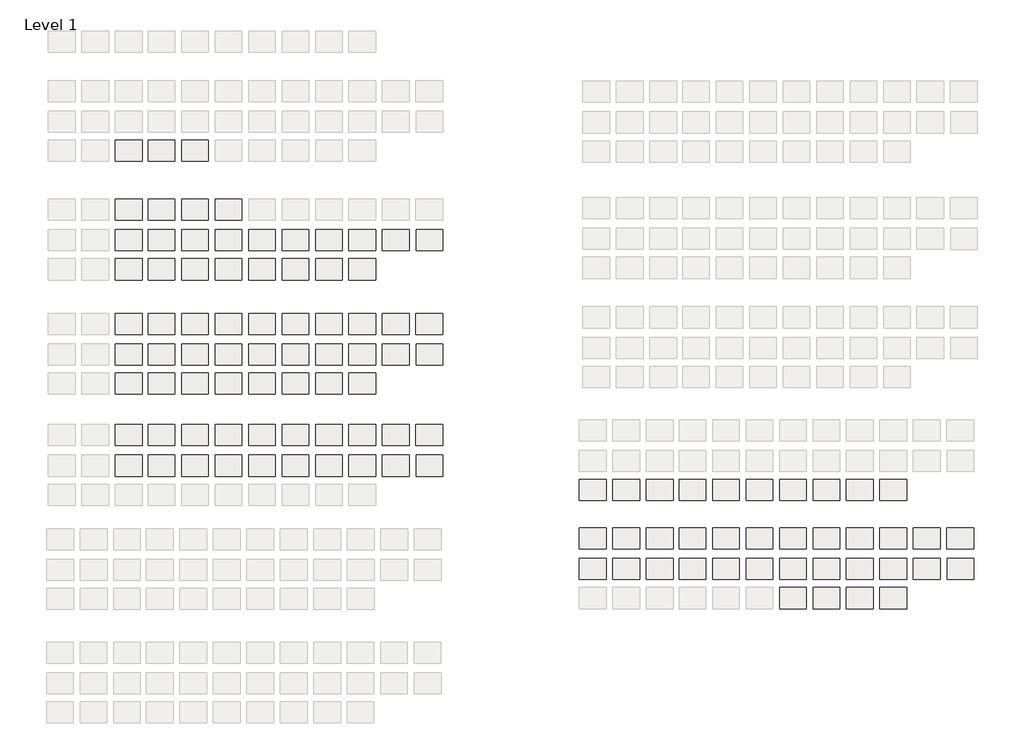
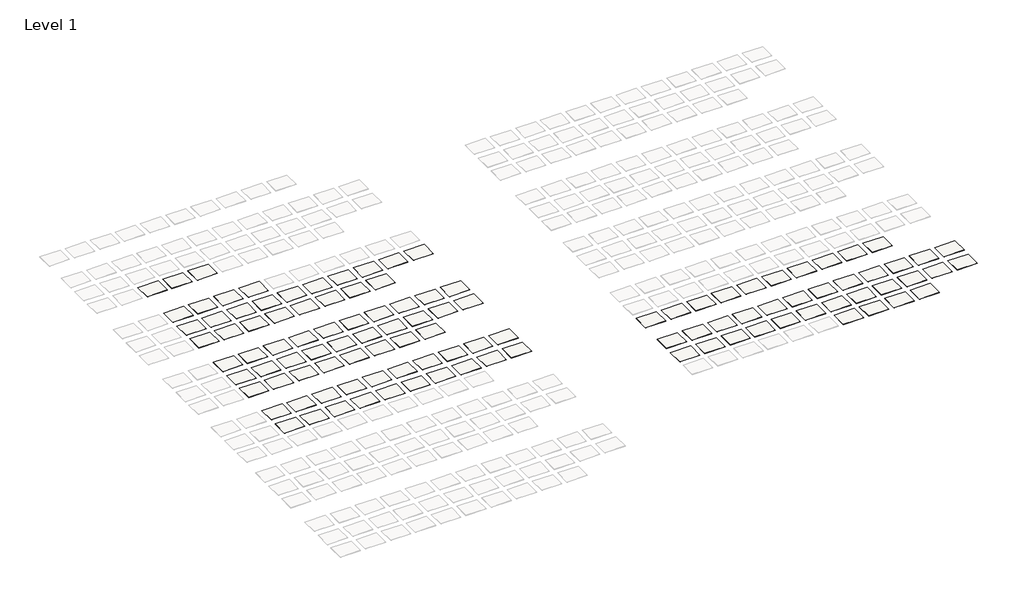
# One storey, part 2 of 4: 111 coverings.
"""IFC4 building model written with IfcOpenShell, lengths in millimetres."""

from ifc_helpers import new_model, si_unit, frame, origin, place, context, project, spatial, polyline, outline, extrude, element, save

model = new_model("IFC4")

# Units and contexts
model_context = context("Model", 3, world=origin())
ifc_project = project(units=[si_unit("LENGTHUNIT", "METRE", prefix="MILLI")], contexts=[model_context])

# Site, building, storey
site = spatial("IfcSite", under=ifc_project)
building = spatial("IfcBuilding", under=site)
storey = spatial("IfcBuildingStorey", under=building, Name="Level 1", Elevation=0.0)

# Coverings
placement = place(None, origin())
element("IfcCovering", 1, ObjectType="Rockfon Color-all A15 600 x 600 mm Scarlet", at=placement, inside=storey, context=model_context, shape_type="SweptSolid", body=[
    extrude(outline(polyline([(4177.7144566, -18251.7532862), (4177.7144566, -21151.7532862), (487.7144566, -21151.7532862), (487.7144566, -18251.7532862), (4177.7144566, -18251.7532862)])), frame((0.0, 0.0, 1.0), z_axis=(0.0, 0.0, 1.0), x_axis=(1.0, 0.0, 0.0)), (0.0, 0.0, 1.0), 15.0),
])
element("IfcCovering", 2, ObjectType="Rockfon Color-all A15 600 x 600 mm Stone", at=placement, inside=storey, context=model_context, shape_type="SweptSolid", body=[
    extrude(outline(polyline([(8677.7144566, -18251.7532862), (8677.7144566, -21151.7532862), (4987.7144566, -21151.7532862), (4987.7144566, -18251.7532862), (8677.7144566, -18251.7532862)])), frame((0.0, 0.0, 1.0), z_axis=(0.0, 0.0, 1.0), x_axis=(1.0, 0.0, 0.0)), (0.0, 0.0, 1.0), 15.0),
])
element("IfcCovering", 3, ObjectType="Rockfon Color-all A15 600 x 600 mm Stucco", at=placement, inside=storey, context=model_context, shape_type="SweptSolid", body=[
    extrude(outline(polyline([(13277.7144566, -18251.7532862), (13277.7144566, -21151.7532862), (9587.7144566, -21151.7532862), (9587.7144566, -18251.7532862), (13277.7144566, -18251.7532862)])), frame((0.0, 0.0, 1.0), z_axis=(0.0, 0.0, 1.0), x_axis=(1.0, 0.0, 0.0)), (0.0, 0.0, 1.0), 15.0),
])
element("IfcCovering", 4, ObjectType="Rockfon Color-all A24 600 x 600 mm Sand", at=placement, inside=storey, context=model_context, shape_type="SweptSolid", body=[
    extrude(outline(polyline([(4177.7144566, -42051.7532862), (4177.7144566, -44951.7532862), (487.7144566, -44951.7532862), (487.7144566, -42051.7532862), (4177.7144566, -42051.7532862)])), frame((0.0, 0.0, 1.0), z_axis=(0.0, 0.0, 1.0), x_axis=(1.0, 0.0, 0.0)), (0.0, 0.0, 1.0), 15.0),
])
element("IfcCovering", 5, ObjectType="Rockfon Color-all A24 600 x 600 mm Fresh", at=placement, inside=storey, context=model_context, shape_type="SweptSolid", body=[
    extrude(outline(polyline([(4177.7144566, -46251.7532862), (4177.7144566, -49151.7532862), (487.7144566, -49151.7532862), (487.7144566, -46251.7532862), (4177.7144566, -46251.7532862)])), frame((0.0, 0.0, 1.0), z_axis=(0.0, 0.0, 1.0), x_axis=(1.0, 0.0, 0.0)), (0.0, 0.0, 1.0), 15.0),
])
element("IfcCovering", 6, ObjectType="Rockfon Color-all A24 600 x 600 mm Scarlet", at=placement, inside=storey, context=model_context, shape_type="SweptSolid", body=[
    extrude(outline(polyline([(4177.7144566, -50251.7532862), (4177.7144566, -53151.7532862), (487.7144566, -53151.7532862), (487.7144566, -50251.7532862), (4177.7144566, -50251.7532862)])), frame((0.0, 0.0, 1.0), z_axis=(0.0, 0.0, 1.0), x_axis=(1.0, 0.0, 0.0)), (0.0, 0.0, 1.0), 15.0),
])
element("IfcCovering", 7, ObjectType="Rockfon Color-all A24 600 x 600 mm Chalk", at=placement, inside=storey, context=model_context, shape_type="SweptSolid", body=[
    extrude(outline(polyline([(8677.7144566, -42051.7532862), (8677.7144566, -44951.7532862), (4987.7144566, -44951.7532862), (4987.7144566, -42051.7532862), (8677.7144566, -42051.7532862)])), frame((0.0, 0.0, 1.0), z_axis=(0.0, 0.0, 1.0), x_axis=(1.0, 0.0, 0.0)), (0.0, 0.0, 1.0), 15.0),
])
element("IfcCovering", 8, ObjectType="Rockfon Color-all A24 600 x 600 mm Sage", at=placement, inside=storey, context=model_context, shape_type="SweptSolid", body=[
    extrude(outline(polyline([(8677.7144566, -46251.7532862), (8677.7144566, -49151.7532862), (4987.7144566, -49151.7532862), (4987.7144566, -46251.7532862), (8677.7144566, -46251.7532862)])), frame((0.0, 0.0, 1.0), z_axis=(0.0, 0.0, 1.0), x_axis=(1.0, 0.0, 0.0)), (0.0, 0.0, 1.0), 15.0),
])
element("IfcCovering", 9, ObjectType="Rockfon Color-all A24 600 x 600 mm Stone", at=placement, inside=storey, context=model_context, shape_type="SweptSolid", body=[
    extrude(outline(polyline([(8677.7144566, -50251.7532862), (8677.7144566, -53151.7532862), (4987.7144566, -53151.7532862), (4987.7144566, -50251.7532862), (8677.7144566, -50251.7532862)])), frame((0.0, 0.0, 1.0), z_axis=(0.0, 0.0, 1.0), x_axis=(1.0, 0.0, 0.0)), (0.0, 0.0, 1.0), 15.0),
])
element("IfcCovering", 10, ObjectType="Rockfon Color-all A24 600 x 600 mm Charcoal", at=placement, inside=storey, context=model_context, shape_type="SweptSolid", body=[
    extrude(outline(polyline([(13277.7144566, -42051.7532862), (13277.7144566, -44951.7532862), (9587.7144566, -44951.7532862), (9587.7144566, -42051.7532862), (13277.7144566, -42051.7532862)])), frame((0.0, 0.0, 1.0), z_axis=(0.0, 0.0, 1.0), x_axis=(1.0, 0.0, 0.0)), (0.0, 0.0, 1.0), 15.0),
])
element("IfcCovering", 11, ObjectType="Rockfon Color-all A24 600 x 600 mm Mint", at=placement, inside=storey, context=model_context, shape_type="SweptSolid", body=[
    extrude(outline(polyline([(13277.7144566, -46251.7532862), (13277.7144566, -49151.7532862), (9587.7144566, -49151.7532862), (9587.7144566, -46251.7532862), (13277.7144566, -46251.7532862)])), frame((0.0, 0.0, 1.0), z_axis=(0.0, 0.0, 1.0), x_axis=(1.0, 0.0, 0.0)), (0.0, 0.0, 1.0), 15.0),
])
element("IfcCovering", 12, ObjectType="Rockfon Color-all A24 600 x 600 mm Stucco", at=placement, inside=storey, context=model_context, shape_type="SweptSolid", body=[
    extrude(outline(polyline([(13277.7144566, -50251.7532862), (13277.7144566, -53151.7532862), (9587.7144566, -53151.7532862), (9587.7144566, -50251.7532862), (13277.7144566, -50251.7532862)])), frame((0.0, 0.0, 1.0), z_axis=(0.0, 0.0, 1.0), x_axis=(1.0, 0.0, 0.0)), (0.0, 0.0, 1.0), 15.0),
])
element("IfcCovering", 13, ObjectType="Rockfon Color-all A24 600 x 600 mm Coral", at=placement, inside=storey, context=model_context, shape_type="SweptSolid", body=[
    extrude(outline(polyline([(17877.7144566, -42051.7532862), (17877.7144566, -44951.7532862), (14187.7144566, -44951.7532862), (14187.7144566, -42051.7532862), (17877.7144566, -42051.7532862)])), frame((0.0, 0.0, 1.0), z_axis=(0.0, 0.0, 1.0), x_axis=(1.0, 0.0, 0.0)), (0.0, 0.0, 1.0), 15.0),
])
element("IfcCovering", 14, ObjectType="Rockfon Color-all A24 600 x 600 mm Gravel", at=placement, inside=storey, context=model_context, shape_type="SweptSolid", body=[
    extrude(outline(polyline([(17877.7144566, -46251.7532862), (17877.7144566, -49151.7532862), (14187.7144566, -49151.7532862), (14187.7144566, -46251.7532862), (17877.7144566, -46251.7532862)])), frame((0.0, 0.0, 1.0), z_axis=(0.0, 0.0, 1.0), x_axis=(1.0, 0.0, 0.0)), (0.0, 0.0, 1.0), 15.0),
])
element("IfcCovering", 15, ObjectType="Rockfon Color-all A24 600 x 600 mm Sandalwood", at=placement, inside=storey, context=model_context, shape_type="SweptSolid", body=[
    extrude(outline(polyline([(17877.7144566, -50251.7532862), (17877.7144566, -53151.7532862), (14187.7144566, -53151.7532862), (14187.7144566, -50251.7532862), (17877.7144566, -50251.7532862)])), frame((0.0, 0.0, 1.0), z_axis=(0.0, 0.0, 1.0), x_axis=(1.0, 0.0, 0.0)), (0.0, 0.0, 1.0), 15.0),
])
element("IfcCovering", 16, ObjectType="Rockfon Color-all A24 600 x 600 mm Clay", at=placement, inside=storey, context=model_context, shape_type="SweptSolid", body=[
    extrude(outline(polyline([(22477.7144566, -42051.7532862), (22477.7144566, -44951.7532862), (18787.7144566, -44951.7532862), (18787.7144566, -42051.7532862), (22477.7144566, -42051.7532862)])), frame((0.0, 0.0, 1.0), z_axis=(0.0, 0.0, 1.0), x_axis=(1.0, 0.0, 0.0)), (0.0, 0.0, 1.0), 15.0),
])
element("IfcCovering", 17, ObjectType="Rockfon Color-all A24 600 x 600 mm Hemp", at=placement, inside=storey, context=model_context, shape_type="SweptSolid", body=[
    extrude(outline(polyline([(22477.7144566, -46251.7532862), (22477.7144566, -49151.7532862), (18787.7144566, -49151.7532862), (18787.7144566, -46251.7532862), (22477.7144566, -46251.7532862)])), frame((0.0, 0.0, 1.0), z_axis=(0.0, 0.0, 1.0), x_axis=(1.0, 0.0, 0.0)), (0.0, 0.0, 1.0), 15.0),
])
element("IfcCovering", 18, ObjectType="Rockfon Color-all A24 600 x 600 mm Ebony", at=placement, inside=storey, context=model_context, shape_type="SweptSolid", body=[
    extrude(outline(polyline([(22477.7144566, -50251.7532862), (22477.7144566, -53151.7532862), (18787.7144566, -53151.7532862), (18787.7144566, -50251.7532862), (22477.7144566, -50251.7532862)])), frame((0.0, 0.0, 1.0), z_axis=(0.0, 0.0, 1.0), x_axis=(1.0, 0.0, 0.0)), (0.0, 0.0, 1.0), 15.0),
])
element("IfcCovering", 19, ObjectType="Rockfon Color-all A24 600 x 600 mm Concrete", at=placement, inside=storey, context=model_context, shape_type="SweptSolid", body=[
    extrude(outline(polyline([(27077.7144566, -42051.7532862), (27077.7144566, -44951.7532862), (23387.7144566, -44951.7532862), (23387.7144566, -42051.7532862), (27077.7144566, -42051.7532862)])), frame((0.0, 0.0, 1.0), z_axis=(0.0, 0.0, 1.0), x_axis=(1.0, 0.0, 0.0)), (0.0, 0.0, 1.0), 15.0),
])
element("IfcCovering", 20, ObjectType="Rockfon Color-all A24 600 x 600 mm Space", at=placement, inside=storey, context=model_context, shape_type="SweptSolid", body=[
    extrude(outline(polyline([(27077.7144566, -46251.7532862), (27077.7144566, -49151.7532862), (23387.7144566, -49151.7532862), (23387.7144566, -46251.7532862), (27077.7144566, -46251.7532862)])), frame((0.0, 0.0, 1.0), z_axis=(0.0, 0.0, 1.0), x_axis=(1.0, 0.0, 0.0)), (0.0, 0.0, 1.0), 15.0),
])
element("IfcCovering", 21, ObjectType="Rockfon Color-all A24 600 x 600 mm Iron", at=placement, inside=storey, context=model_context, shape_type="SweptSolid", body=[
    extrude(outline(polyline([(27077.7144566, -50251.7532862), (27077.7144566, -53151.7532862), (23387.7144566, -53151.7532862), (23387.7144566, -50251.7532862), (27077.7144566, -50251.7532862)])), frame((0.0, 0.0, 1.0), z_axis=(0.0, 0.0, 1.0), x_axis=(1.0, 0.0, 0.0)), (0.0, 0.0, 1.0), 15.0),
])
element("IfcCovering", 22, ObjectType="Rockfon Color-all A24 600 x 600 mm Seashell", at=placement, inside=storey, context=model_context, shape_type="SweptSolid", body=[
    extrude(outline(polyline([(31677.7144566, -42051.7532862), (31677.7144566, -44951.7532862), (27987.7144566, -44951.7532862), (27987.7144566, -42051.7532862), (31677.7144566, -42051.7532862)])), frame((0.0, 0.0, 1.0), z_axis=(0.0, 0.0, 1.0), x_axis=(1.0, 0.0, 0.0)), (0.0, 0.0, 1.0), 15.0),
])
element("IfcCovering", 23, ObjectType="Rockfon Color-all A24 600 x 600 mm Storm", at=placement, inside=storey, context=model_context, shape_type="SweptSolid", body=[
    extrude(outline(polyline([(31677.7144566, -46251.7532862), (31677.7144566, -49151.7532862), (27987.7144566, -49151.7532862), (27987.7144566, -46251.7532862), (31677.7144566, -46251.7532862)])), frame((0.0, 0.0, 1.0), z_axis=(0.0, 0.0, 1.0), x_axis=(1.0, 0.0, 0.0)), (0.0, 0.0, 1.0), 15.0),
])
element("IfcCovering", 24, ObjectType="Rockfon Color-all A24 600 x 600 mm Moon", at=placement, inside=storey, context=model_context, shape_type="SweptSolid", body=[
    extrude(outline(polyline([(31677.7144566, -50251.7532862), (31677.7144566, -53151.7532862), (27987.7144566, -53151.7532862), (27987.7144566, -50251.7532862), (31677.7144566, -50251.7532862)])), frame((0.0, 0.0, 1.0), z_axis=(0.0, 0.0, 1.0), x_axis=(1.0, 0.0, 0.0)), (0.0, 0.0, 1.0), 15.0),
])
element("IfcCovering", 25, ObjectType="Rockfon Color-all A24 600 x 600 mm Cork", at=placement, inside=storey, context=model_context, shape_type="SweptSolid", body=[
    extrude(outline(polyline([(36277.7144566, -42051.7532862), (36277.7144566, -44951.7532862), (32587.7144566, -44951.7532862), (32587.7144566, -42051.7532862), (36277.7144566, -42051.7532862)])), frame((0.0, 0.0, 1.0), z_axis=(0.0, 0.0, 1.0), x_axis=(1.0, 0.0, 0.0)), (0.0, 0.0, 1.0), 15.0),
])
element("IfcCovering", 26, ObjectType="Rockfon Color-all A24 600 x 600 mm Linen", at=placement, inside=storey, context=model_context, shape_type="SweptSolid", body=[
    extrude(outline(polyline([(36277.7144566, -46251.7532862), (36277.7144566, -49151.7532862), (32587.7144566, -49151.7532862), (32587.7144566, -46251.7532862), (36277.7144566, -46251.7532862)])), frame((0.0, 0.0, 1.0), z_axis=(0.0, 0.0, 1.0), x_axis=(1.0, 0.0, 0.0)), (0.0, 0.0, 1.0), 15.0),
])
element("IfcCovering", 27, ObjectType="Rockfon Color-all A24 600 x 600 mm Zinc", at=placement, inside=storey, context=model_context, shape_type="SweptSolid", body=[
    extrude(outline(polyline([(36277.7144566, -50251.7532862), (36277.7144566, -53151.7532862), (32587.7144566, -53151.7532862), (32587.7144566, -50251.7532862), (36277.7144566, -50251.7532862)])), frame((0.0, 0.0, 1.0), z_axis=(0.0, 0.0, 1.0), x_axis=(1.0, 0.0, 0.0)), (0.0, 0.0, 1.0), 15.0),
])
element("IfcCovering", 28, ObjectType="Rockfon Color-all A24 600 x 600 mm Petal", at=placement, inside=storey, context=model_context, shape_type="SweptSolid", body=[
    extrude(outline(polyline([(40877.7144566, -42051.7532862), (40877.7144566, -44951.7532862), (37187.7144566, -44951.7532862), (37187.7144566, -42051.7532862), (40877.7144566, -42051.7532862)])), frame((0.0, 0.0, 1.0), z_axis=(0.0, 0.0, 1.0), x_axis=(1.0, 0.0, 0.0)), (0.0, 0.0, 1.0), 15.0),
])
element("IfcCovering", 29, ObjectType="Rockfon Color-all A24 600 x 600 mm Mastic", at=placement, inside=storey, context=model_context, shape_type="SweptSolid", body=[
    extrude(outline(polyline([(40877.7144566, -46251.7532862), (40877.7144566, -49151.7532862), (37187.7144566, -49151.7532862), (37187.7144566, -46251.7532862), (40877.7144566, -46251.7532862)])), frame((0.0, 0.0, 1.0), z_axis=(0.0, 0.0, 1.0), x_axis=(1.0, 0.0, 0.0)), (0.0, 0.0, 1.0), 15.0),
])
element("IfcCovering", 30, ObjectType="Rockfon Color-all A24 600 x 600 mm Mercury", at=placement, inside=storey, context=model_context, shape_type="SweptSolid", body=[
    extrude(outline(polyline([(45496.7857141, -46256.8808472), (45496.7857141, -49156.8808472), (41806.7857141, -49156.8808472), (41806.7857141, -46256.8808472), (45496.7857141, -46256.8808472)])), frame((0.0, 0.0, 1.0), z_axis=(0.0, 0.0, 1.0), x_axis=(1.0, 0.0, 0.0)), (0.0, 0.0, 1.0), 15.0),
])
element("IfcCovering", 31, ObjectType="Rockfon Color-all A24 600 x 600 mm Earth", at=placement, inside=storey, context=model_context, shape_type="SweptSolid", body=[
    extrude(outline(polyline([(45477.7144566, -42051.7532862), (45477.7144566, -44951.7532862), (41787.7144566, -44951.7532862), (41787.7144566, -42051.7532862), (45477.7144566, -42051.7532862)])), frame((0.0, 0.0, 1.0), z_axis=(0.0, 0.0, 1.0), x_axis=(1.0, 0.0, 0.0)), (0.0, 0.0, 1.0), 15.0),
])
element("IfcCovering", 32, ObjectType="Rockfon Color-all A15 1200 x 600 mm Sand", at=placement, inside=storey, context=model_context, shape_type="SweptSolid", body=[
    extrude(outline(polyline([(4177.7144566, -26351.7532862), (4177.7144566, -29251.7532862), (487.7144566, -29251.7532862), (487.7144566, -26351.7532862), (4177.7144566, -26351.7532862)])), frame((0.0, 0.0, 1.0), z_axis=(0.0, 0.0, 1.0), x_axis=(1.0, 0.0, 0.0)), (0.0, 0.0, 1.0), 15.0),
])
element("IfcCovering", 33, ObjectType="Rockfon Color-all A15 1200 x 600 mm Fresh", at=placement, inside=storey, context=model_context, shape_type="SweptSolid", body=[
    extrude(outline(polyline([(4177.7144566, -30551.7532862), (4177.7144566, -33451.7532862), (487.7144566, -33451.7532862), (487.7144566, -30551.7532862), (4177.7144566, -30551.7532862)])), frame((0.0, 0.0, 1.0), z_axis=(0.0, 0.0, 1.0), x_axis=(1.0, 0.0, 0.0)), (0.0, 0.0, 1.0), 15.0),
])
element("IfcCovering", 34, ObjectType="Rockfon Color-all A15 1200 x 600 mm Scarlet", at=placement, inside=storey, context=model_context, shape_type="SweptSolid", body=[
    extrude(outline(polyline([(4177.7144566, -34551.7532862), (4177.7144566, -37451.7532862), (487.7144566, -37451.7532862), (487.7144566, -34551.7532862), (4177.7144566, -34551.7532862)])), frame((0.0, 0.0, 1.0), z_axis=(0.0, 0.0, 1.0), x_axis=(1.0, 0.0, 0.0)), (0.0, 0.0, 1.0), 15.0),
])
element("IfcCovering", 35, ObjectType="Rockfon Color-all A15 1200 x 600 mm Chalk", at=placement, inside=storey, context=model_context, shape_type="SweptSolid", body=[
    extrude(outline(polyline([(8677.7144566, -26351.7532862), (8677.7144566, -29251.7532862), (4987.7144566, -29251.7532862), (4987.7144566, -26351.7532862), (8677.7144566, -26351.7532862)])), frame((0.0, 0.0, 1.0), z_axis=(0.0, 0.0, 1.0), x_axis=(1.0, 0.0, 0.0)), (0.0, 0.0, 1.0), 15.0),
])
element("IfcCovering", 36, ObjectType="Rockfon Color-all A15 1200 x 600 mm Sage", at=placement, inside=storey, context=model_context, shape_type="SweptSolid", body=[
    extrude(outline(polyline([(8677.7144566, -30551.7532862), (8677.7144566, -33451.7532862), (4987.7144566, -33451.7532862), (4987.7144566, -30551.7532862), (8677.7144566, -30551.7532862)])), frame((0.0, 0.0, 1.0), z_axis=(0.0, 0.0, 1.0), x_axis=(1.0, 0.0, 0.0)), (0.0, 0.0, 1.0), 15.0),
])
element("IfcCovering", 37, ObjectType="Rockfon Color-all A15 1200 x 600 mm Stone", at=placement, inside=storey, context=model_context, shape_type="SweptSolid", body=[
    extrude(outline(polyline([(8677.7144566, -34551.7532862), (8677.7144566, -37451.7532862), (4987.7144566, -37451.7532862), (4987.7144566, -34551.7532862), (8677.7144566, -34551.7532862)])), frame((0.0, 0.0, 1.0), z_axis=(0.0, 0.0, 1.0), x_axis=(1.0, 0.0, 0.0)), (0.0, 0.0, 1.0), 15.0),
])
element("IfcCovering", 38, ObjectType="Rockfon Color-all A15 1200 x 600 mm Charcoal", at=placement, inside=storey, context=model_context, shape_type="SweptSolid", body=[
    extrude(outline(polyline([(13277.7144566, -26351.7532862), (13277.7144566, -29251.7532862), (9587.7144566, -29251.7532862), (9587.7144566, -26351.7532862), (13277.7144566, -26351.7532862)])), frame((0.0, 0.0, 1.0), z_axis=(0.0, 0.0, 1.0), x_axis=(1.0, 0.0, 0.0)), (0.0, 0.0, 1.0), 15.0),
])
element("IfcCovering", 39, ObjectType="Rockfon Color-all A15 1200 x 600 mm Mint", at=placement, inside=storey, context=model_context, shape_type="SweptSolid", body=[
    extrude(outline(polyline([(13277.7144566, -30551.7532862), (13277.7144566, -33451.7532862), (9587.7144566, -33451.7532862), (9587.7144566, -30551.7532862), (13277.7144566, -30551.7532862)])), frame((0.0, 0.0, 1.0), z_axis=(0.0, 0.0, 1.0), x_axis=(1.0, 0.0, 0.0)), (0.0, 0.0, 1.0), 15.0),
])
element("IfcCovering", 40, ObjectType="Rockfon Color-all A15 1200 x 600 mm Stucco", at=placement, inside=storey, context=model_context, shape_type="SweptSolid", body=[
    extrude(outline(polyline([(13277.7144566, -34551.7532862), (13277.7144566, -37451.7532862), (9587.7144566, -37451.7532862), (9587.7144566, -34551.7532862), (13277.7144566, -34551.7532862)])), frame((0.0, 0.0, 1.0), z_axis=(0.0, 0.0, 1.0), x_axis=(1.0, 0.0, 0.0)), (0.0, 0.0, 1.0), 15.0),
])
element("IfcCovering", 41, ObjectType="Rockfon Color-all A15 1200 x 600 mm Coral", at=placement, inside=storey, context=model_context, shape_type="SweptSolid", body=[
    extrude(outline(polyline([(17877.7144566, -26351.7532862), (17877.7144566, -29251.7532862), (14187.7144566, -29251.7532862), (14187.7144566, -26351.7532862), (17877.7144566, -26351.7532862)])), frame((0.0, 0.0, 1.0), z_axis=(0.0, 0.0, 1.0), x_axis=(1.0, 0.0, 0.0)), (0.0, 0.0, 1.0), 15.0),
])
element("IfcCovering", 42, ObjectType="Rockfon Color-all A15 1200 x 600 mm Gravel", at=placement, inside=storey, context=model_context, shape_type="SweptSolid", body=[
    extrude(outline(polyline([(17877.7144566, -30551.7532862), (17877.7144566, -33451.7532862), (14187.7144566, -33451.7532862), (14187.7144566, -30551.7532862), (17877.7144566, -30551.7532862)])), frame((0.0, 0.0, 1.0), z_axis=(0.0, 0.0, 1.0), x_axis=(1.0, 0.0, 0.0)), (0.0, 0.0, 1.0), 15.0),
])
element("IfcCovering", 43, ObjectType="Rockfon Color-all A15 1200 x 600 mm Sandalwood", at=placement, inside=storey, context=model_context, shape_type="SweptSolid", body=[
    extrude(outline(polyline([(17877.7144566, -34551.7532862), (17877.7144566, -37451.7532862), (14187.7144566, -37451.7532862), (14187.7144566, -34551.7532862), (17877.7144566, -34551.7532862)])), frame((0.0, 0.0, 1.0), z_axis=(0.0, 0.0, 1.0), x_axis=(1.0, 0.0, 0.0)), (0.0, 0.0, 1.0), 15.0),
])
element("IfcCovering", 44, ObjectType="Rockfon Color-all A15 1200 x 600 mm Hemp", at=placement, inside=storey, context=model_context, shape_type="SweptSolid", body=[
    extrude(outline(polyline([(22477.7144566, -30551.7532862), (22477.7144566, -33451.7532862), (18787.7144566, -33451.7532862), (18787.7144566, -30551.7532862), (22477.7144566, -30551.7532862)])), frame((0.0, 0.0, 1.0), z_axis=(0.0, 0.0, 1.0), x_axis=(1.0, 0.0, 0.0)), (0.0, 0.0, 1.0), 15.0),
])
element("IfcCovering", 45, ObjectType="Rockfon Color-all A15 1200 x 600 mm Ebony", at=placement, inside=storey, context=model_context, shape_type="SweptSolid", body=[
    extrude(outline(polyline([(22477.7144566, -34551.7532862), (22477.7144566, -37451.7532862), (18787.7144566, -37451.7532862), (18787.7144566, -34551.7532862), (22477.7144566, -34551.7532862)])), frame((0.0, 0.0, 1.0), z_axis=(0.0, 0.0, 1.0), x_axis=(1.0, 0.0, 0.0)), (0.0, 0.0, 1.0), 15.0),
])
element("IfcCovering", 46, ObjectType="Rockfon Color-all A15 1200 x 600 mm Space", at=placement, inside=storey, context=model_context, shape_type="SweptSolid", body=[
    extrude(outline(polyline([(27077.7144566, -30551.7532862), (27077.7144566, -33451.7532862), (23387.7144566, -33451.7532862), (23387.7144566, -30551.7532862), (27077.7144566, -30551.7532862)])), frame((0.0, 0.0, 1.0), z_axis=(0.0, 0.0, 1.0), x_axis=(1.0, 0.0, 0.0)), (0.0, 0.0, 1.0), 15.0),
])
element("IfcCovering", 47, ObjectType="Rockfon Color-all A15 1200 x 600 mm Iron", at=placement, inside=storey, context=model_context, shape_type="SweptSolid", body=[
    extrude(outline(polyline([(27077.7144566, -34551.7532862), (27077.7144566, -37451.7532862), (23387.7144566, -37451.7532862), (23387.7144566, -34551.7532862), (27077.7144566, -34551.7532862)])), frame((0.0, 0.0, 1.0), z_axis=(0.0, 0.0, 1.0), x_axis=(1.0, 0.0, 0.0)), (0.0, 0.0, 1.0), 15.0),
])
element("IfcCovering", 48, ObjectType="Rockfon Color-all A15 1200 x 600 mm Storm", at=placement, inside=storey, context=model_context, shape_type="SweptSolid", body=[
    extrude(outline(polyline([(31677.7144566, -30551.7532862), (31677.7144566, -33451.7532862), (27987.7144566, -33451.7532862), (27987.7144566, -30551.7532862), (31677.7144566, -30551.7532862)])), frame((0.0, 0.0, 1.0), z_axis=(0.0, 0.0, 1.0), x_axis=(1.0, 0.0, 0.0)), (0.0, 0.0, 1.0), 15.0),
])
element("IfcCovering", 49, ObjectType="Rockfon Color-all A15 1200 x 600 mm Moon", at=placement, inside=storey, context=model_context, shape_type="SweptSolid", body=[
    extrude(outline(polyline([(31677.7144566, -34551.7532862), (31677.7144566, -37451.7532862), (27987.7144566, -37451.7532862), (27987.7144566, -34551.7532862), (31677.7144566, -34551.7532862)])), frame((0.0, 0.0, 1.0), z_axis=(0.0, 0.0, 1.0), x_axis=(1.0, 0.0, 0.0)), (0.0, 0.0, 1.0), 15.0),
])
element("IfcCovering", 50, ObjectType="Rockfon Color-all A15 1200 x 600 mm Linen", at=placement, inside=storey, context=model_context, shape_type="SweptSolid", body=[
    extrude(outline(polyline([(36277.7144566, -30551.7532862), (36277.7144566, -33451.7532862), (32587.7144566, -33451.7532862), (32587.7144566, -30551.7532862), (36277.7144566, -30551.7532862)])), frame((0.0, 0.0, 1.0), z_axis=(0.0, 0.0, 1.0), x_axis=(1.0, 0.0, 0.0)), (0.0, 0.0, 1.0), 15.0),
])
element("IfcCovering", 51, ObjectType="Rockfon Color-all A15 1200 x 600 mm Zinc", at=placement, inside=storey, context=model_context, shape_type="SweptSolid", body=[
    extrude(outline(polyline([(36277.7144566, -34551.7532862), (36277.7144566, -37451.7532862), (32587.7144566, -37451.7532862), (32587.7144566, -34551.7532862), (36277.7144566, -34551.7532862)])), frame((0.0, 0.0, 1.0), z_axis=(0.0, 0.0, 1.0), x_axis=(1.0, 0.0, 0.0)), (0.0, 0.0, 1.0), 15.0),
])
element("IfcCovering", 52, ObjectType="Rockfon Color-all A15 1200 x 600 mm Mastic", at=placement, inside=storey, context=model_context, shape_type="SweptSolid", body=[
    extrude(outline(polyline([(40877.7144566, -30551.7532862), (40877.7144566, -33451.7532862), (37187.7144566, -33451.7532862), (37187.7144566, -30551.7532862), (40877.7144566, -30551.7532862)])), frame((0.0, 0.0, 1.0), z_axis=(0.0, 0.0, 1.0), x_axis=(1.0, 0.0, 0.0)), (0.0, 0.0, 1.0), 15.0),
])
element("IfcCovering", 53, ObjectType="Rockfon Color-all A15 1200 x 600 mm Mercury", at=placement, inside=storey, context=model_context, shape_type="SweptSolid", body=[
    extrude(outline(polyline([(45496.7857141, -30556.8808472), (45496.7857141, -33456.8808472), (41806.7857141, -33456.8808472), (41806.7857141, -30556.8808472), (45496.7857141, -30556.8808472)])), frame((0.0, 0.0, 1.0), z_axis=(0.0, 0.0, 1.0), x_axis=(1.0, 0.0, 0.0)), (0.0, 0.0, 1.0), 15.0),
])
element("IfcCovering", 54, ObjectType="Rockfon Color-all A24 1200 x 600 mm Sand", at=placement, inside=storey, context=model_context, shape_type="SweptSolid", body=[
    extrude(outline(polyline([(4177.7144566, -57351.7532862), (4177.7144566, -60251.7532862), (487.7144566, -60251.7532862), (487.7144566, -57351.7532862), (4177.7144566, -57351.7532862)])), frame((0.0, 0.0, 1.0), z_axis=(0.0, 0.0, 1.0), x_axis=(1.0, 0.0, 0.0)), (0.0, 0.0, 1.0), 15.0),
])
element("IfcCovering", 55, ObjectType="Rockfon Color-all A24 1200 x 600 mm Fresh", at=placement, inside=storey, context=model_context, shape_type="SweptSolid", body=[
    extrude(outline(polyline([(4177.7144566, -61551.7532862), (4177.7144566, -64451.7532862), (487.7144566, -64451.7532862), (487.7144566, -61551.7532862), (4177.7144566, -61551.7532862)])), frame((0.0, 0.0, 1.0), z_axis=(0.0, 0.0, 1.0), x_axis=(1.0, 0.0, 0.0)), (0.0, 0.0, 1.0), 15.0),
])
element("IfcCovering", 56, ObjectType="Rockfon Color-all A24 1200 x 600 mm Chalk", at=placement, inside=storey, context=model_context, shape_type="SweptSolid", body=[
    extrude(outline(polyline([(8677.7144566, -57351.7532862), (8677.7144566, -60251.7532862), (4987.7144566, -60251.7532862), (4987.7144566, -57351.7532862), (8677.7144566, -57351.7532862)])), frame((0.0, 0.0, 1.0), z_axis=(0.0, 0.0, 1.0), x_axis=(1.0, 0.0, 0.0)), (0.0, 0.0, 1.0), 15.0),
])
element("IfcCovering", 57, ObjectType="Rockfon Color-all A24 1200 x 600 mm Sage", at=placement, inside=storey, context=model_context, shape_type="SweptSolid", body=[
    extrude(outline(polyline([(8677.7144566, -61551.7532862), (8677.7144566, -64451.7532862), (4987.7144566, -64451.7532862), (4987.7144566, -61551.7532862), (8677.7144566, -61551.7532862)])), frame((0.0, 0.0, 1.0), z_axis=(0.0, 0.0, 1.0), x_axis=(1.0, 0.0, 0.0)), (0.0, 0.0, 1.0), 15.0),
])
element("IfcCovering", 58, ObjectType="Rockfon Color-all A24 1200 x 600 mm Charcoal", at=placement, inside=storey, context=model_context, shape_type="SweptSolid", body=[
    extrude(outline(polyline([(13277.7144566, -57351.7532862), (13277.7144566, -60251.7532862), (9587.7144566, -60251.7532862), (9587.7144566, -57351.7532862), (13277.7144566, -57351.7532862)])), frame((0.0, 0.0, 1.0), z_axis=(0.0, 0.0, 1.0), x_axis=(1.0, 0.0, 0.0)), (0.0, 0.0, 1.0), 15.0),
])
element("IfcCovering", 59, ObjectType="Rockfon Color-all A24 1200 x 600 mm Mint", at=placement, inside=storey, context=model_context, shape_type="SweptSolid", body=[
    extrude(outline(polyline([(13277.7144566, -61551.7532862), (13277.7144566, -64451.7532862), (9587.7144566, -64451.7532862), (9587.7144566, -61551.7532862), (13277.7144566, -61551.7532862)])), frame((0.0, 0.0, 1.0), z_axis=(0.0, 0.0, 1.0), x_axis=(1.0, 0.0, 0.0)), (0.0, 0.0, 1.0), 15.0),
])
element("IfcCovering", 60, ObjectType="Rockfon Color-all A24 1200 x 600 mm Coral", at=placement, inside=storey, context=model_context, shape_type="SweptSolid", body=[
    extrude(outline(polyline([(17877.7144566, -57351.7532862), (17877.7144566, -60251.7532862), (14187.7144566, -60251.7532862), (14187.7144566, -57351.7532862), (17877.7144566, -57351.7532862)])), frame((0.0, 0.0, 1.0), z_axis=(0.0, 0.0, 1.0), x_axis=(1.0, 0.0, 0.0)), (0.0, 0.0, 1.0), 15.0),
])
element("IfcCovering", 61, ObjectType="Rockfon Color-all A24 1200 x 600 mm Gravel", at=placement, inside=storey, context=model_context, shape_type="SweptSolid", body=[
    extrude(outline(polyline([(17877.7144566, -61551.7532862), (17877.7144566, -64451.7532862), (14187.7144566, -64451.7532862), (14187.7144566, -61551.7532862), (17877.7144566, -61551.7532862)])), frame((0.0, 0.0, 1.0), z_axis=(0.0, 0.0, 1.0), x_axis=(1.0, 0.0, 0.0)), (0.0, 0.0, 1.0), 15.0),
])
element("IfcCovering", 62, ObjectType="Rockfon Color-all A24 1200 x 600 mm Clay", at=placement, inside=storey, context=model_context, shape_type="SweptSolid", body=[
    extrude(outline(polyline([(22477.7144566, -57351.7532862), (22477.7144566, -60251.7532862), (18787.7144566, -60251.7532862), (18787.7144566, -57351.7532862), (22477.7144566, -57351.7532862)])), frame((0.0, 0.0, 1.0), z_axis=(0.0, 0.0, 1.0), x_axis=(1.0, 0.0, 0.0)), (0.0, 0.0, 1.0), 15.0),
])
element("IfcCovering", 63, ObjectType="Rockfon Color-all A24 1200 x 600 mm Hemp", at=placement, inside=storey, context=model_context, shape_type="SweptSolid", body=[
    extrude(outline(polyline([(22477.7144566, -61551.7532862), (22477.7144566, -64451.7532862), (18787.7144566, -64451.7532862), (18787.7144566, -61551.7532862), (22477.7144566, -61551.7532862)])), frame((0.0, 0.0, 1.0), z_axis=(0.0, 0.0, 1.0), x_axis=(1.0, 0.0, 0.0)), (0.0, 0.0, 1.0), 15.0),
])
element("IfcCovering", 64, ObjectType="Rockfon Color-all A24 1200 x 600 mm Concrete", at=placement, inside=storey, context=model_context, shape_type="SweptSolid", body=[
    extrude(outline(polyline([(27077.7144566, -57351.7532862), (27077.7144566, -60251.7532862), (23387.7144566, -60251.7532862), (23387.7144566, -57351.7532862), (27077.7144566, -57351.7532862)])), frame((0.0, 0.0, 1.0), z_axis=(0.0, 0.0, 1.0), x_axis=(1.0, 0.0, 0.0)), (0.0, 0.0, 1.0), 15.0),
])
element("IfcCovering", 65, ObjectType="Rockfon Color-all A24 1200 x 600 mm Space", at=placement, inside=storey, context=model_context, shape_type="SweptSolid", body=[
    extrude(outline(polyline([(27077.7144566, -61551.7532862), (27077.7144566, -64451.7532862), (23387.7144566, -64451.7532862), (23387.7144566, -61551.7532862), (27077.7144566, -61551.7532862)])), frame((0.0, 0.0, 1.0), z_axis=(0.0, 0.0, 1.0), x_axis=(1.0, 0.0, 0.0)), (0.0, 0.0, 1.0), 15.0),
])
element("IfcCovering", 66, ObjectType="Rockfon Color-all A24 1200 x 600 mm Seashell", at=placement, inside=storey, context=model_context, shape_type="SweptSolid", body=[
    extrude(outline(polyline([(31677.7144566, -57351.7532862), (31677.7144566, -60251.7532862), (27987.7144566, -60251.7532862), (27987.7144566, -57351.7532862), (31677.7144566, -57351.7532862)])), frame((0.0, 0.0, 1.0), z_axis=(0.0, 0.0, 1.0), x_axis=(1.0, 0.0, 0.0)), (0.0, 0.0, 1.0), 15.0),
])
element("IfcCovering", 67, ObjectType="Rockfon Color-all A24 1200 x 600 mm Storm", at=placement, inside=storey, context=model_context, shape_type="SweptSolid", body=[
    extrude(outline(polyline([(31677.7144566, -61551.7532862), (31677.7144566, -64451.7532862), (27987.7144566, -64451.7532862), (27987.7144566, -61551.7532862), (31677.7144566, -61551.7532862)])), frame((0.0, 0.0, 1.0), z_axis=(0.0, 0.0, 1.0), x_axis=(1.0, 0.0, 0.0)), (0.0, 0.0, 1.0), 15.0),
])
element("IfcCovering", 68, ObjectType="Rockfon Color-all A24 1200 x 600 mm Cork", at=placement, inside=storey, context=model_context, shape_type="SweptSolid", body=[
    extrude(outline(polyline([(36277.7144566, -57351.7532862), (36277.7144566, -60251.7532862), (32587.7144566, -60251.7532862), (32587.7144566, -57351.7532862), (36277.7144566, -57351.7532862)])), frame((0.0, 0.0, 1.0), z_axis=(0.0, 0.0, 1.0), x_axis=(1.0, 0.0, 0.0)), (0.0, 0.0, 1.0), 15.0),
])
element("IfcCovering", 69, ObjectType="Rockfon Color-all A24 1200 x 600 mm Linen", at=placement, inside=storey, context=model_context, shape_type="SweptSolid", body=[
    extrude(outline(polyline([(36277.7144566, -61551.7532862), (36277.7144566, -64451.7532862), (32587.7144566, -64451.7532862), (32587.7144566, -61551.7532862), (36277.7144566, -61551.7532862)])), frame((0.0, 0.0, 1.0), z_axis=(0.0, 0.0, 1.0), x_axis=(1.0, 0.0, 0.0)), (0.0, 0.0, 1.0), 15.0),
])
element("IfcCovering", 70, ObjectType="Rockfon Color-all A24 1200 x 600 mm Petal", at=placement, inside=storey, context=model_context, shape_type="SweptSolid", body=[
    extrude(outline(polyline([(40877.7144566, -57351.7532862), (40877.7144566, -60251.7532862), (37187.7144566, -60251.7532862), (37187.7144566, -57351.7532862), (40877.7144566, -57351.7532862)])), frame((0.0, 0.0, 1.0), z_axis=(0.0, 0.0, 1.0), x_axis=(1.0, 0.0, 0.0)), (0.0, 0.0, 1.0), 15.0),
])
element("IfcCovering", 71, ObjectType="Rockfon Color-all A24 1200 x 600 mm Mastic", at=placement, inside=storey, context=model_context, shape_type="SweptSolid", body=[
    extrude(outline(polyline([(40877.7144566, -61551.7532862), (40877.7144566, -64451.7532862), (37187.7144566, -64451.7532862), (37187.7144566, -61551.7532862), (40877.7144566, -61551.7532862)])), frame((0.0, 0.0, 1.0), z_axis=(0.0, 0.0, 1.0), x_axis=(1.0, 0.0, 0.0)), (0.0, 0.0, 1.0), 15.0),
])
element("IfcCovering", 72, ObjectType="Rockfon Color-all A24 1200 x 600 mm Mercury", at=placement, inside=storey, context=model_context, shape_type="SweptSolid", body=[
    extrude(outline(polyline([(45496.7857141, -61556.8808472), (45496.7857141, -64456.8808472), (41806.7857141, -64456.8808472), (41806.7857141, -61556.8808472), (45496.7857141, -61556.8808472)])), frame((0.0, 0.0, 1.0), z_axis=(0.0, 0.0, 1.0), x_axis=(1.0, 0.0, 0.0)), (0.0, 0.0, 1.0), 15.0),
])
element("IfcCovering", 73, ObjectType="Rockfon Color-all A24 1200 x 600 mm Earth", at=placement, inside=storey, context=model_context, shape_type="SweptSolid", body=[
    extrude(outline(polyline([(45477.7144566, -57351.7532862), (45477.7144566, -60251.7532862), (41787.7144566, -60251.7532862), (41787.7144566, -57351.7532862), (45477.7144566, -57351.7532862)])), frame((0.0, 0.0, 1.0), z_axis=(0.0, 0.0, 1.0), x_axis=(1.0, 0.0, 0.0)), (0.0, 0.0, 1.0), 15.0),
])
element("IfcCovering", 74, ObjectType="Rockfon Color-all B 600 x 600 mm Misty", at=placement, inside=storey, context=model_context, shape_type="SweptSolid", body=[
    extrude(outline(polyline([(67933.0208414, -64910.7287916), (67933.0208414, -67810.7287916), (64243.0208414, -67810.7287916), (64243.0208414, -64910.7287916), (67933.0208414, -64910.7287916)])), frame((0.0, 0.0, 1.0), z_axis=(0.0, 0.0, 1.0), x_axis=(1.0, 0.0, 0.0)), (0.0, 0.0, 1.0), 40.0),
])
element("IfcCovering", 75, ObjectType="Rockfon Color-all B 600 x 600 mm Plaster", at=placement, inside=storey, context=model_context, shape_type="SweptSolid", body=[
    extrude(outline(polyline([(72533.0208414, -64910.7287916), (72533.0208414, -67810.7287916), (68843.0208414, -67810.7287916), (68843.0208414, -64910.7287916), (72533.0208414, -64910.7287916)])), frame((0.0, 0.0, 1.0), z_axis=(0.0, 0.0, 1.0), x_axis=(1.0, 0.0, 0.0)), (0.0, 0.0, 1.0), 40.0),
])
element("IfcCovering", 76, ObjectType="Rockfon Color-all B 600 x 600 mm Scarlet", at=placement, inside=storey, context=model_context, shape_type="SweptSolid", body=[
    extrude(outline(polyline([(77133.0208414, -64910.7287916), (77133.0208414, -67810.7287916), (73443.0208414, -67810.7287916), (73443.0208414, -64910.7287916), (77133.0208414, -64910.7287916)])), frame((0.0, 0.0, 1.0), z_axis=(0.0, 0.0, 1.0), x_axis=(1.0, 0.0, 0.0)), (0.0, 0.0, 1.0), 15.0),
])
element("IfcCovering", 77, ObjectType="Rockfon Color-all B 600 x 600 mm Stone", at=placement, inside=storey, context=model_context, shape_type="SweptSolid", body=[
    extrude(outline(polyline([(81633.0208414, -64910.7287916), (81633.0208414, -67810.7287916), (77943.0208414, -67810.7287916), (77943.0208414, -64910.7287916), (81633.0208414, -64910.7287916)])), frame((0.0, 0.0, 1.0), z_axis=(0.0, 0.0, 1.0), x_axis=(1.0, 0.0, 0.0)), (0.0, 0.0, 1.0), 40.0),
])
element("IfcCovering", 78, ObjectType="Rockfon Color-all B 600 x 600 mm Stucco", at=placement, inside=storey, context=model_context, shape_type="SweptSolid", body=[
    extrude(outline(polyline([(86233.0208414, -64910.7287916), (86233.0208414, -67810.7287916), (82543.0208414, -67810.7287916), (82543.0208414, -64910.7287916), (86233.0208414, -64910.7287916)])), frame((0.0, 0.0, 1.0), z_axis=(0.0, 0.0, 1.0), x_axis=(1.0, 0.0, 0.0)), (0.0, 0.0, 1.0), 40.0),
])
element("IfcCovering", 79, ObjectType="Rockfon Color-all B 600 x 600 mm Sandalwood", at=placement, inside=storey, context=model_context, shape_type="SweptSolid", body=[
    extrude(outline(polyline([(90833.0208414, -64910.7287916), (90833.0208414, -67810.7287916), (87143.0208414, -67810.7287916), (87143.0208414, -64910.7287916), (90833.0208414, -64910.7287916)])), frame((0.0, 0.0, 1.0), z_axis=(0.0, 0.0, 1.0), x_axis=(1.0, 0.0, 0.0)), (0.0, 0.0, 1.0), 40.0),
])
element("IfcCovering", 80, ObjectType="Rockfon Color-all B 600 x 600 mm Ebony", at=placement, inside=storey, context=model_context, shape_type="SweptSolid", body=[
    extrude(outline(polyline([(95433.0208414, -64910.7287916), (95433.0208414, -67810.7287916), (91743.0208414, -67810.7287916), (91743.0208414, -64910.7287916), (95433.0208414, -64910.7287916)])), frame((0.0, 0.0, 1.0), z_axis=(0.0, 0.0, 1.0), x_axis=(1.0, 0.0, 0.0)), (0.0, 0.0, 1.0), 40.0),
])
element("IfcCovering", 81, ObjectType="Rockfon Color-all B 600 x 600 mm Iron", at=placement, inside=storey, context=model_context, shape_type="SweptSolid", body=[
    extrude(outline(polyline([(100033.0208414, -64910.7287916), (100033.0208414, -67810.7287916), (96343.0208414, -67810.7287916), (96343.0208414, -64910.7287916), (100033.0208414, -64910.7287916)])), frame((0.0, 0.0, 1.0), z_axis=(0.0, 0.0, 1.0), x_axis=(1.0, 0.0, 0.0)), (0.0, 0.0, 1.0), 40.0),
])
element("IfcCovering", 82, ObjectType="Rockfon Color-all B 600 x 600 mm Moon", at=placement, inside=storey, context=model_context, shape_type="SweptSolid", body=[
    extrude(outline(polyline([(104633.0208414, -64910.7287916), (104633.0208414, -67810.7287916), (100943.0208414, -67810.7287916), (100943.0208414, -64910.7287916), (104633.0208414, -64910.7287916)])), frame((0.0, 0.0, 1.0), z_axis=(0.0, 0.0, 1.0), x_axis=(1.0, 0.0, 0.0)), (0.0, 0.0, 1.0), 40.0),
])
element("IfcCovering", 83, ObjectType="Rockfon Color-all B 600 x 600 mm Zinc", at=placement, inside=storey, context=model_context, shape_type="SweptSolid", body=[
    extrude(outline(polyline([(109233.0208414, -64910.7287916), (109233.0208414, -67810.7287916), (105543.0208414, -67810.7287916), (105543.0208414, -64910.7287916), (109233.0208414, -64910.7287916)])), frame((0.0, 0.0, 1.0), z_axis=(0.0, 0.0, 1.0), x_axis=(1.0, 0.0, 0.0)), (0.0, 0.0, 1.0), 40.0),
])
element("IfcCovering", 84, ObjectType="Rockfon Color-all B 1200 x 600 mm Anthracite", at=placement, inside=storey, context=model_context, shape_type="SweptSolid", body=[
    extrude(outline(polyline([(67933.0208414, -71560.7287916), (67933.0208414, -74460.7287916), (64243.0208414, -74460.7287916), (64243.0208414, -71560.7287916), (67933.0208414, -71560.7287916)])), frame((0.0, 0.0, 1.0), z_axis=(0.0, 0.0, 1.0), x_axis=(1.0, 0.0, 0.0)), (0.0, 0.0, 1.0), 40.0),
])
element("IfcCovering", 85, ObjectType="Rockfon Color-all B 1200 x 600 mm Seaweed", at=placement, inside=storey, context=model_context, shape_type="SweptSolid", body=[
    extrude(outline(polyline([(67933.0208414, -75760.7287916), (67933.0208414, -78660.7287916), (64243.0208414, -78660.7287916), (64243.0208414, -75760.7287916), (67933.0208414, -75760.7287916)])), frame((0.0, 0.0, 1.0), z_axis=(0.0, 0.0, 1.0), x_axis=(1.0, 0.0, 0.0)), (0.0, 0.0, 1.0), 40.0),
])
element("IfcCovering", 86, ObjectType="Rockfon Color-all B 1200 x 600 mm Mustard", at=placement, inside=storey, context=model_context, shape_type="SweptSolid", body=[
    extrude(outline(polyline([(72533.0208414, -71560.7287916), (72533.0208414, -74460.7287916), (68843.0208414, -74460.7287916), (68843.0208414, -71560.7287916), (72533.0208414, -71560.7287916)])), frame((0.0, 0.0, 1.0), z_axis=(0.0, 0.0, 1.0), x_axis=(1.0, 0.0, 0.0)), (0.0, 0.0, 1.0), 40.0),
])
element("IfcCovering", 87, ObjectType="Rockfon Color-all B 1200 x 600 mm Eucalyptus", at=placement, inside=storey, context=model_context, shape_type="SweptSolid", body=[
    extrude(outline(polyline([(72533.0208414, -75760.7287916), (72533.0208414, -78660.7287916), (68843.0208414, -78660.7287916), (68843.0208414, -75760.7287916), (72533.0208414, -75760.7287916)])), frame((0.0, 0.0, 1.0), z_axis=(0.0, 0.0, 1.0), x_axis=(1.0, 0.0, 0.0)), (0.0, 0.0, 1.0), 40.0),
])
element("IfcCovering", 88, ObjectType="Rockfon Color-all B 1200 x 600 mm Sand", at=placement, inside=storey, context=model_context, shape_type="SweptSolid", body=[
    extrude(outline(polyline([(77133.0208414, -71560.7287916), (77133.0208414, -74460.7287916), (73443.0208414, -74460.7287916), (73443.0208414, -71560.7287916), (77133.0208414, -71560.7287916)])), frame((0.0, 0.0, 1.0), z_axis=(0.0, 0.0, 1.0), x_axis=(1.0, 0.0, 0.0)), (0.0, 0.0, 1.0), 40.0),
])
element("IfcCovering", 89, ObjectType="Rockfon Color-all B 1200 x 600 mm Fresh", at=placement, inside=storey, context=model_context, shape_type="SweptSolid", body=[
    extrude(outline(polyline([(77133.0208414, -75760.7287916), (77133.0208414, -78660.7287916), (73443.0208414, -78660.7287916), (73443.0208414, -75760.7287916), (77133.0208414, -75760.7287916)])), frame((0.0, 0.0, 1.0), z_axis=(0.0, 0.0, 1.0), x_axis=(1.0, 0.0, 0.0)), (0.0, 0.0, 1.0), 40.0),
])
element("IfcCovering", 90, ObjectType="Rockfon Color-all B 1200 x 600 mm Chalk", at=placement, inside=storey, context=model_context, shape_type="SweptSolid", body=[
    extrude(outline(polyline([(81633.0208414, -71560.7287916), (81633.0208414, -74460.7287916), (77943.0208414, -74460.7287916), (77943.0208414, -71560.7287916), (81633.0208414, -71560.7287916)])), frame((0.0, 0.0, 1.0), z_axis=(0.0, 0.0, 1.0), x_axis=(1.0, 0.0, 0.0)), (0.0, 0.0, 1.0), 40.0),
])
element("IfcCovering", 91, ObjectType="Rockfon Color-all B 1200 x 600 mm Sage", at=placement, inside=storey, context=model_context, shape_type="SweptSolid", body=[
    extrude(outline(polyline([(81633.0208414, -75760.7287916), (81633.0208414, -78660.7287916), (77943.0208414, -78660.7287916), (77943.0208414, -75760.7287916), (81633.0208414, -75760.7287916)])), frame((0.0, 0.0, 1.0), z_axis=(0.0, 0.0, 1.0), x_axis=(1.0, 0.0, 0.0)), (0.0, 0.0, 1.0), 40.0),
])
element("IfcCovering", 92, ObjectType="Rockfon Color-all B 1200 x 600 mm Charcoal", at=placement, inside=storey, context=model_context, shape_type="SweptSolid", body=[
    extrude(outline(polyline([(86233.0208414, -71560.7287916), (86233.0208414, -74460.7287916), (82543.0208414, -74460.7287916), (82543.0208414, -71560.7287916), (86233.0208414, -71560.7287916)])), frame((0.0, 0.0, 1.0), z_axis=(0.0, 0.0, 1.0), x_axis=(1.0, 0.0, 0.0)), (0.0, 0.0, 1.0), 40.0),
])
element("IfcCovering", 93, ObjectType="Rockfon Color-all B 1200 x 600 mm Mint", at=placement, inside=storey, context=model_context, shape_type="SweptSolid", body=[
    extrude(outline(polyline([(86233.0208414, -75760.7287916), (86233.0208414, -78660.7287916), (82543.0208414, -78660.7287916), (82543.0208414, -75760.7287916), (86233.0208414, -75760.7287916)])), frame((0.0, 0.0, 1.0), z_axis=(0.0, 0.0, 1.0), x_axis=(1.0, 0.0, 0.0)), (0.0, 0.0, 1.0), 40.0),
])
element("IfcCovering", 94, ObjectType="Rockfon Color-all B 1200 x 600 mm Coral", at=placement, inside=storey, context=model_context, shape_type="SweptSolid", body=[
    extrude(outline(polyline([(90833.0208414, -71560.7287916), (90833.0208414, -74460.7287916), (87143.0208414, -74460.7287916), (87143.0208414, -71560.7287916), (90833.0208414, -71560.7287916)])), frame((0.0, 0.0, 1.0), z_axis=(0.0, 0.0, 1.0), x_axis=(1.0, 0.0, 0.0)), (0.0, 0.0, 1.0), 40.0),
])
element("IfcCovering", 95, ObjectType="Rockfon Color-all B 1200 x 600 mm Gravel", at=placement, inside=storey, context=model_context, shape_type="SweptSolid", body=[
    extrude(outline(polyline([(90833.0208414, -75760.7287916), (90833.0208414, -78660.7287916), (87143.0208414, -78660.7287916), (87143.0208414, -75760.7287916), (90833.0208414, -75760.7287916)])), frame((0.0, 0.0, 1.0), z_axis=(0.0, 0.0, 1.0), x_axis=(1.0, 0.0, 0.0)), (0.0, 0.0, 1.0), 40.0),
])
element("IfcCovering", 96, ObjectType="Rockfon Color-all B 1200 x 600 mm Clay", at=placement, inside=storey, context=model_context, shape_type="SweptSolid", body=[
    extrude(outline(polyline([(95433.0208414, -71560.7287916), (95433.0208414, -74460.7287916), (91743.0208414, -74460.7287916), (91743.0208414, -71560.7287916), (95433.0208414, -71560.7287916)])), frame((0.0, 0.0, 1.0), z_axis=(0.0, 0.0, 1.0), x_axis=(1.0, 0.0, 0.0)), (0.0, 0.0, 1.0), 40.0),
])
element("IfcCovering", 97, ObjectType="Rockfon Color-all B 1200 x 600 mm Hemp", at=placement, inside=storey, context=model_context, shape_type="SweptSolid", body=[
    extrude(outline(polyline([(95433.0208414, -75760.7287916), (95433.0208414, -78660.7287916), (91743.0208414, -78660.7287916), (91743.0208414, -75760.7287916), (95433.0208414, -75760.7287916)])), frame((0.0, 0.0, 1.0), z_axis=(0.0, 0.0, 1.0), x_axis=(1.0, 0.0, 0.0)), (0.0, 0.0, 1.0), 40.0),
])
element("IfcCovering", 98, ObjectType="Rockfon Color-all B 1200 x 600 mm Ebony", at=placement, inside=storey, context=model_context, shape_type="SweptSolid", body=[
    extrude(outline(polyline([(95433.0208414, -79760.7287916), (95433.0208414, -82660.7287916), (91743.0208414, -82660.7287916), (91743.0208414, -79760.7287916), (95433.0208414, -79760.7287916)])), frame((0.0, 0.0, 1.0), z_axis=(0.0, 0.0, 1.0), x_axis=(1.0, 0.0, 0.0)), (0.0, 0.0, 1.0), 40.0),
])
element("IfcCovering", 99, ObjectType="Rockfon Color-all B 1200 x 600 mm Concrete", at=placement, inside=storey, context=model_context, shape_type="SweptSolid", body=[
    extrude(outline(polyline([(100033.0208414, -71560.7287916), (100033.0208414, -74460.7287916), (96343.0208414, -74460.7287916), (96343.0208414, -71560.7287916), (100033.0208414, -71560.7287916)])), frame((0.0, 0.0, 1.0), z_axis=(0.0, 0.0, 1.0), x_axis=(1.0, 0.0, 0.0)), (0.0, 0.0, 1.0), 40.0),
])
element("IfcCovering", 100, ObjectType="Rockfon Color-all B 1200 x 600 mm Space", at=placement, inside=storey, context=model_context, shape_type="SweptSolid", body=[
    extrude(outline(polyline([(100033.0208414, -75760.7287916), (100033.0208414, -78660.7287916), (96343.0208414, -78660.7287916), (96343.0208414, -75760.7287916), (100033.0208414, -75760.7287916)])), frame((0.0, 0.0, 1.0), z_axis=(0.0, 0.0, 1.0), x_axis=(1.0, 0.0, 0.0)), (0.0, 0.0, 1.0), 40.0),
])
element("IfcCovering", 101, ObjectType="Rockfon Color-all B 1200 x 600 mm Iron", at=placement, inside=storey, context=model_context, shape_type="SweptSolid", body=[
    extrude(outline(polyline([(100033.0208414, -79760.7287916), (100033.0208414, -82660.7287916), (96343.0208414, -82660.7287916), (96343.0208414, -79760.7287916), (100033.0208414, -79760.7287916)])), frame((0.0, 0.0, 1.0), z_axis=(0.0, 0.0, 1.0), x_axis=(1.0, 0.0, 0.0)), (0.0, 0.0, 1.0), 40.0),
])
element("IfcCovering", 102, ObjectType="Rockfon Color-all B 1200 x 600 mm Seashell", at=placement, inside=storey, context=model_context, shape_type="SweptSolid", body=[
    extrude(outline(polyline([(104633.0208414, -71560.7287916), (104633.0208414, -74460.7287916), (100943.0208414, -74460.7287916), (100943.0208414, -71560.7287916), (104633.0208414, -71560.7287916)])), frame((0.0, 0.0, 1.0), z_axis=(0.0, 0.0, 1.0), x_axis=(1.0, 0.0, 0.0)), (0.0, 0.0, 1.0), 40.0),
])
element("IfcCovering", 103, ObjectType="Rockfon Color-all B 1200 x 600 mm Storm", at=placement, inside=storey, context=model_context, shape_type="SweptSolid", body=[
    extrude(outline(polyline([(104633.0208414, -75760.7287916), (104633.0208414, -78660.7287916), (100943.0208414, -78660.7287916), (100943.0208414, -75760.7287916), (104633.0208414, -75760.7287916)])), frame((0.0, 0.0, 1.0), z_axis=(0.0, 0.0, 1.0), x_axis=(1.0, 0.0, 0.0)), (0.0, 0.0, 1.0), 40.0),
])
element("IfcCovering", 104, ObjectType="Rockfon Color-all B 1200 x 600 mm Moon", at=placement, inside=storey, context=model_context, shape_type="SweptSolid", body=[
    extrude(outline(polyline([(104633.0208414, -79760.7287916), (104633.0208414, -82660.7287916), (100943.0208414, -82660.7287916), (100943.0208414, -79760.7287916), (104633.0208414, -79760.7287916)])), frame((0.0, 0.0, 1.0), z_axis=(0.0, 0.0, 1.0), x_axis=(1.0, 0.0, 0.0)), (0.0, 0.0, 1.0), 40.0),
])
element("IfcCovering", 105, ObjectType="Rockfon Color-all B 1200 x 600 mm Cork", at=placement, inside=storey, context=model_context, shape_type="SweptSolid", body=[
    extrude(outline(polyline([(109233.0208414, -71560.7287916), (109233.0208414, -74460.7287916), (105543.0208414, -74460.7287916), (105543.0208414, -71560.7287916), (109233.0208414, -71560.7287916)])), frame((0.0, 0.0, 1.0), z_axis=(0.0, 0.0, 1.0), x_axis=(1.0, 0.0, 0.0)), (0.0, 0.0, 1.0), 40.0),
])
element("IfcCovering", 106, ObjectType="Rockfon Color-all B 1200 x 600 mm Linen", at=placement, inside=storey, context=model_context, shape_type="SweptSolid", body=[
    extrude(outline(polyline([(109233.0208414, -75760.7287916), (109233.0208414, -78660.7287916), (105543.0208414, -78660.7287916), (105543.0208414, -75760.7287916), (109233.0208414, -75760.7287916)])), frame((0.0, 0.0, 1.0), z_axis=(0.0, 0.0, 1.0), x_axis=(1.0, 0.0, 0.0)), (0.0, 0.0, 1.0), 40.0),
])
element("IfcCovering", 107, ObjectType="Rockfon Color-all B 1200 x 600 mm Zinc", at=placement, inside=storey, context=model_context, shape_type="SweptSolid", body=[
    extrude(outline(polyline([(109233.0208414, -79760.7287916), (109233.0208414, -82660.7287916), (105543.0208414, -82660.7287916), (105543.0208414, -79760.7287916), (109233.0208414, -79760.7287916)])), frame((0.0, 0.0, 1.0), z_axis=(0.0, 0.0, 1.0), x_axis=(1.0, 0.0, 0.0)), (0.0, 0.0, 1.0), 40.0),
])
element("IfcCovering", 108, ObjectType="Rockfon Color-all B 1200 x 600 mm Petal", at=placement, inside=storey, context=model_context, shape_type="SweptSolid", body=[
    extrude(outline(polyline([(113833.0208414, -71560.7287916), (113833.0208414, -74460.7287916), (110143.0208414, -74460.7287916), (110143.0208414, -71560.7287916), (113833.0208414, -71560.7287916)])), frame((0.0, 0.0, 1.0), z_axis=(0.0, 0.0, 1.0), x_axis=(1.0, 0.0, 0.0)), (0.0, 0.0, 1.0), 40.0),
])
element("IfcCovering", 109, ObjectType="Rockfon Color-all B 1200 x 600 mm Mastic", at=placement, inside=storey, context=model_context, shape_type="SweptSolid", body=[
    extrude(outline(polyline([(113833.0208414, -75760.7287916), (113833.0208414, -78660.7287916), (110143.0208414, -78660.7287916), (110143.0208414, -75760.7287916), (113833.0208414, -75760.7287916)])), frame((0.0, 0.0, 1.0), z_axis=(0.0, 0.0, 1.0), x_axis=(1.0, 0.0, 0.0)), (0.0, 0.0, 1.0), 40.0),
])
element("IfcCovering", 110, ObjectType="Rockfon Color-all B 1200 x 600 mm Mercury", at=placement, inside=storey, context=model_context, shape_type="SweptSolid", body=[
    extrude(outline(polyline([(118452.0920989, -75765.8563527), (118452.0920989, -78665.8563527), (114762.0920989, -78665.8563527), (114762.0920989, -75765.8563527), (118452.0920989, -75765.8563527)])), frame((0.0, 0.0, 1.0), z_axis=(0.0, 0.0, 1.0), x_axis=(1.0, 0.0, 0.0)), (0.0, 0.0, 1.0), 40.0),
])
element("IfcCovering", 111, ObjectType="Rockfon Color-all B 1200 x 600 mm Earth", at=placement, inside=storey, context=model_context, shape_type="SweptSolid", body=[
    extrude(outline(polyline([(118433.0208414, -71560.7287916), (118433.0208414, -74460.7287916), (114743.0208414, -74460.7287916), (114743.0208414, -71560.7287916), (118433.0208414, -71560.7287916)])), frame((0.0, 0.0, 1.0), z_axis=(0.0, 0.0, 1.0), x_axis=(1.0, 0.0, 0.0)), (0.0, 0.0, 1.0), 40.0),
])

save(model, "model.ifc")
